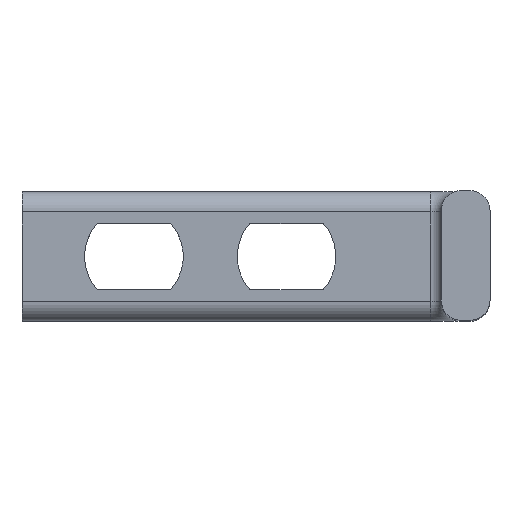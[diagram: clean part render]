
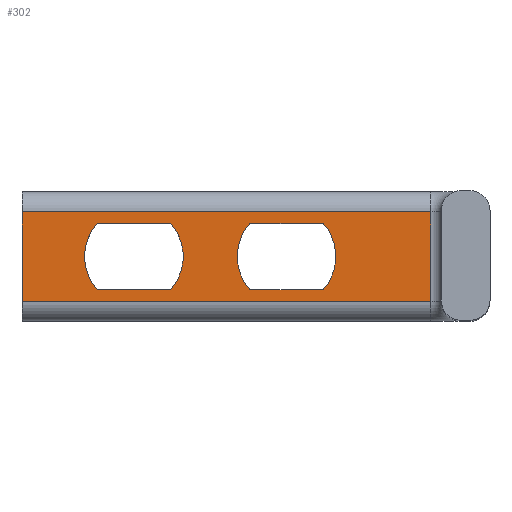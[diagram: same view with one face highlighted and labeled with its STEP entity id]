
A CAD part, top view. The second image highlights one B-rep face of the part: STEP entity #302.
In plain terms, the highlighted planar face has unit normal (0, 0, 1).
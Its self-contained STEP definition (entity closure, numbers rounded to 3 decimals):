
#75=CARTESIAN_POINT('',(-23.,4.375,4.8));
#76=VERTEX_POINT('',#75);
#84=CARTESIAN_POINT('',(17.2,4.375,4.8));
#85=VERTEX_POINT('',#84);
#86=CARTESIAN_POINT('',(-23.,4.375,4.8));
#87=DIRECTION('',(1.0,0.0,0.0));
#88=VECTOR('',#87,40.2);
#89=LINE('',#86,#88);
#90=EDGE_CURVE('',#76,#85,#89,.T.);
#200=CARTESIAN_POINT('',(0.,0.,4.8));
#201=DIRECTION('',(0.0,0.0,1.0));
#202=DIRECTION('',(1.0,0.0,0.0));
#203=AXIS2_PLACEMENT_3D('',#200,#201,#202);
#204=PLANE('',#203);
#205=ORIENTED_EDGE('',*,*,#90,.F.);
#206=CARTESIAN_POINT('',(-23.,-4.375,4.8));
#207=VERTEX_POINT('',#206);
#208=CARTESIAN_POINT('',(-23.,-4.375,4.8));
#209=DIRECTION('',(0.0,1.0,0.0));
#210=VECTOR('',#209,8.75);
#211=LINE('',#208,#210);
#212=EDGE_CURVE('',#207,#76,#211,.T.);
#213=ORIENTED_EDGE('',*,*,#212,.F.);
#214=CARTESIAN_POINT('',(17.2,-4.375,4.8));
#215=VERTEX_POINT('',#214);
#216=CARTESIAN_POINT('',(17.2,-4.375,4.8));
#217=DIRECTION('',(-1.0,0.0,0.0));
#218=VECTOR('',#217,40.2);
#219=LINE('',#216,#218);
#220=EDGE_CURVE('',#215,#207,#219,.T.);
#221=ORIENTED_EDGE('',*,*,#220,.F.);
#222=CARTESIAN_POINT('',(17.2,4.375,4.8));
#223=DIRECTION('',(0.0,-1.0,0.0));
#224=VECTOR('',#223,8.75);
#225=LINE('',#222,#224);
#226=EDGE_CURVE('',#85,#215,#225,.T.);
#227=ORIENTED_EDGE('',*,*,#226,.F.);
#228=EDGE_LOOP('',(#205,#213,#221,#227));
#229=FACE_OUTER_BOUND('',#228,.T.);
#230=CARTESIAN_POINT('',(-0.6,3.25,4.8));
#231=VERTEX_POINT('',#230);
#232=CARTESIAN_POINT('',(6.6,3.25,4.8));
#233=VERTEX_POINT('',#232);
#234=CARTESIAN_POINT('',(-0.6,3.25,4.8));
#235=DIRECTION('',(1.0,0.0,0.0));
#236=VECTOR('',#235,7.2);
#237=LINE('',#234,#236);
#238=EDGE_CURVE('',#231,#233,#237,.T.);
#239=ORIENTED_EDGE('',*,*,#238,.T.);
#240=CARTESIAN_POINT('',(6.6,-3.25,4.8));
#241=VERTEX_POINT('',#240);
#242=CARTESIAN_POINT('',(3.,0.0,4.8));
#243=DIRECTION('',(0.0,0.0,-1.));
#244=DIRECTION('',(-0.742,0.67,0.0));
#245=AXIS2_PLACEMENT_3D('',#242,#243,#244);
#246=CIRCLE('',#245,4.85);
#247=EDGE_CURVE('',#233,#241,#246,.T.);
#248=ORIENTED_EDGE('',*,*,#247,.T.);
#249=CARTESIAN_POINT('',(-0.6,-3.25,4.8));
#250=VERTEX_POINT('',#249);
#251=CARTESIAN_POINT('',(6.6,-3.25,4.8));
#252=DIRECTION('',(-1.0,0.0,0.0));
#253=VECTOR('',#252,7.2);
#254=LINE('',#251,#253);
#255=EDGE_CURVE('',#241,#250,#254,.T.);
#256=ORIENTED_EDGE('',*,*,#255,.T.);
#257=CARTESIAN_POINT('',(3.,0.0,4.8));
#258=DIRECTION('',(0.0,0.0,-1.0));
#259=DIRECTION('',(0.742,-0.67,0.0));
#260=AXIS2_PLACEMENT_3D('',#257,#258,#259);
#261=CIRCLE('',#260,4.85);
#262=EDGE_CURVE('',#250,#231,#261,.T.);
#263=ORIENTED_EDGE('',*,*,#262,.T.);
#264=EDGE_LOOP('',(#239,#248,#256,#263));
#265=FACE_BOUND('',#264,.T.);
#266=CARTESIAN_POINT('',(-15.6,-3.25,4.8));
#267=VERTEX_POINT('',#266);
#268=CARTESIAN_POINT('',(-15.6,3.25,4.8));
#269=VERTEX_POINT('',#268);
#270=CARTESIAN_POINT('',(-12.,0.,4.8));
#271=DIRECTION('',(0.0,0.0,-1.));
#272=DIRECTION('',(0.742,-0.67,0.0));
#273=AXIS2_PLACEMENT_3D('',#270,#271,#272);
#274=CIRCLE('',#273,4.85);
#275=EDGE_CURVE('',#267,#269,#274,.T.);
#276=ORIENTED_EDGE('',*,*,#275,.T.);
#277=CARTESIAN_POINT('',(-8.4,3.25,4.8));
#278=VERTEX_POINT('',#277);
#279=CARTESIAN_POINT('',(-15.6,3.25,4.8));
#280=DIRECTION('',(1.0,0.0,0.0));
#281=VECTOR('',#280,7.2);
#282=LINE('',#279,#281);
#283=EDGE_CURVE('',#269,#278,#282,.T.);
#284=ORIENTED_EDGE('',*,*,#283,.T.);
#285=CARTESIAN_POINT('',(-8.4,-3.25,4.8));
#286=VERTEX_POINT('',#285);
#287=CARTESIAN_POINT('',(-12.,0.,4.8));
#288=DIRECTION('',(0.0,0.0,-1.0));
#289=DIRECTION('',(-0.742,0.67,0.0));
#290=AXIS2_PLACEMENT_3D('',#287,#288,#289);
#291=CIRCLE('',#290,4.85);
#292=EDGE_CURVE('',#278,#286,#291,.T.);
#293=ORIENTED_EDGE('',*,*,#292,.T.);
#294=CARTESIAN_POINT('',(-8.4,-3.25,4.8));
#295=DIRECTION('',(-1.0,0.0,0.0));
#296=VECTOR('',#295,7.2);
#297=LINE('',#294,#296);
#298=EDGE_CURVE('',#286,#267,#297,.T.);
#299=ORIENTED_EDGE('',*,*,#298,.T.);
#300=EDGE_LOOP('',(#276,#284,#293,#299));
#301=FACE_BOUND('',#300,.T.);
#302=ADVANCED_FACE('',(#229,#265,#301),#204,.T.);
